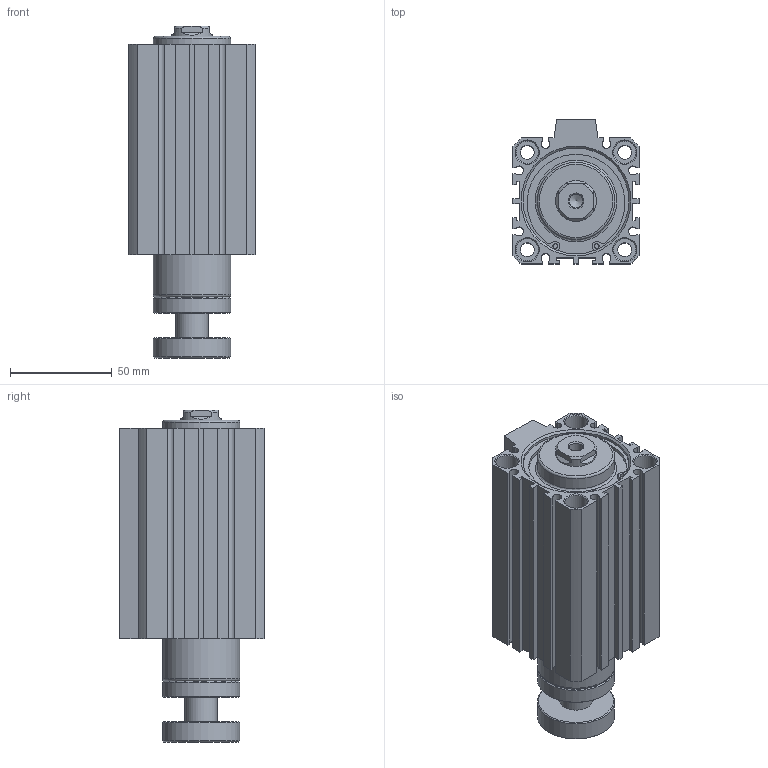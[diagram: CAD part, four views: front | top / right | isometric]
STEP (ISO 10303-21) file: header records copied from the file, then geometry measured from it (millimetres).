
FILE_DESCRIPTION((''),'2;1');
FILE_NAME('I:\3D電子目錄\氣缸\JDAR\JDAR\JDAR50\JDAR50x75.stp','2007-03-14T11:00:00',('662F206'),(''),'Autodesk Inventor 11','Autodesk Inventor 11','');
FILE_SCHEMA(('AUTOMOTIVE_DESIGN { 1 0 10303 214 1 1 1 1 }'));
Length unit declared in the file: millimetre
Products named in the file (3): JDAR50; R 形環 52
Assembly tree (3 placements, depth 2):
  JDAR50
    JDAR50
    R 形環 52  x2
Bounding box: 62 x 71 x 163.3 mm (x, y, z)
Volume: 406235.4 mm3; surface area: 72948.5 mm2
Topology: 3 solids, 3 shells, 193 faces, 472 edges, 309 vertices
Faces by surface type: plane 110, cylinder 54, cone 23, bspline 4, torus 2
Full cylindrical faces by diameter (mm): 2.3 x4, 2.7 x2, 6.8 x4, 11 x8, 16 x1, 20 x1, 38 x4, 52 x4, 55 x2
Entity records: 5195 total; most frequent: CARTESIAN_POINT 989, DIRECTION 870, ORIENTED_EDGE 764, EDGE_CURVE 382, AXIS2_PLACEMENT_3D 313, VERTEX_POINT 282, EDGE_LOOP 270, VECTOR 244
